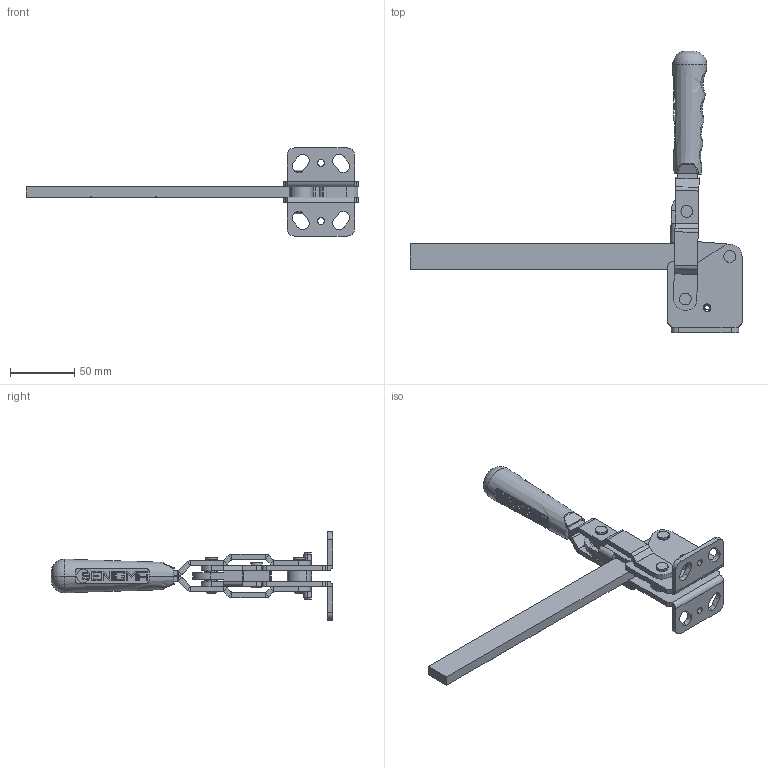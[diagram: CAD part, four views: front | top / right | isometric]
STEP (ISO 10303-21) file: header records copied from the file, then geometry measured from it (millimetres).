
FILE_DESCRIPTION (( 'STEP AP214' ), '1' );
FILE_NAME ('1105-Y-L.STEP', '2022-09-01T11:12:25', ( '' ), ( '' ), 'SwSTEP 2.0', 'SolidWorks 2022', '' );
FILE_SCHEMA (( 'AUTOMOTIVE_DESIGN' ));
Length unit declared in the file: millimetre
Products named in the file (13): Ø18,5xØ10,5x8_YÜZÜK_Varsayılan; 10x6x8_BURÇ_Varsayılan; 6x19,5_PERÇİN_Varsayılan; 10x6x14_BURÇ_Varsayılan; 6x36_YARIKLI_PİM_Varsayılan; 1105_Y-D_GÖVDE_2022_Varsayılan; 6x27,5_PERÇİN_Varsayılan; L3_Baskı_Kolu; C95_Yeni_Tutamak_Varsayılan; Aynalama1105_Y-D_GÖVDE_2022_Varsayılan; 1105_MAFSAL_2022_Varsayılan; 1105_HAREKET_KOLU_2022_Varsayılan; 1105-Y-L
Assembly tree (17 placements, depth 2):
  1105-Y-L
    1105_Y-D_GÖVDE_2022_Varsayılan
    Ø18,5xØ10,5x8_YÜZÜK_Varsayılan
    1105_HAREKET_KOLU_2022_Varsayılan  x2
    1105_MAFSAL_2022_Varsayılan
    Aynalama1105_Y-D_GÖVDE_2022_Varsayılan
    10x6x14_BURÇ_Varsayılan  x2
    10x6x8_BURÇ_Varsayılan  x2
    6x19,5_PERÇİN_Varsayılan  x2
    6x27,5_PERÇİN_Varsayılan  x2
    C95_Yeni_Tutamak_Varsayılan
    6x36_YARIKLI_PİM_Varsayılan
    L3_Baskı_Kolu
Bounding box: 257.5 x 218.29 x 68.4 mm (x, y, z)
Volume: 145877.2 mm3; surface area: 77020.1 mm2
Topology: 17 solids, 17 shells, 1026 faces, 2541 edges, 1614 vertices
Faces by surface type: plane 698, cylinder 222, cone 40, torus 36, bspline 28, sphere 2
Entity records: 23274 total; most frequent: CARTESIAN_POINT 5565, ORIENTED_EDGE 3534, DIRECTION 3528, EDGE_CURVE 1767, LINE 1206, VECTOR 1206, AXIS2_PLACEMENT_3D 1161, VERTEX_POINT 1130
